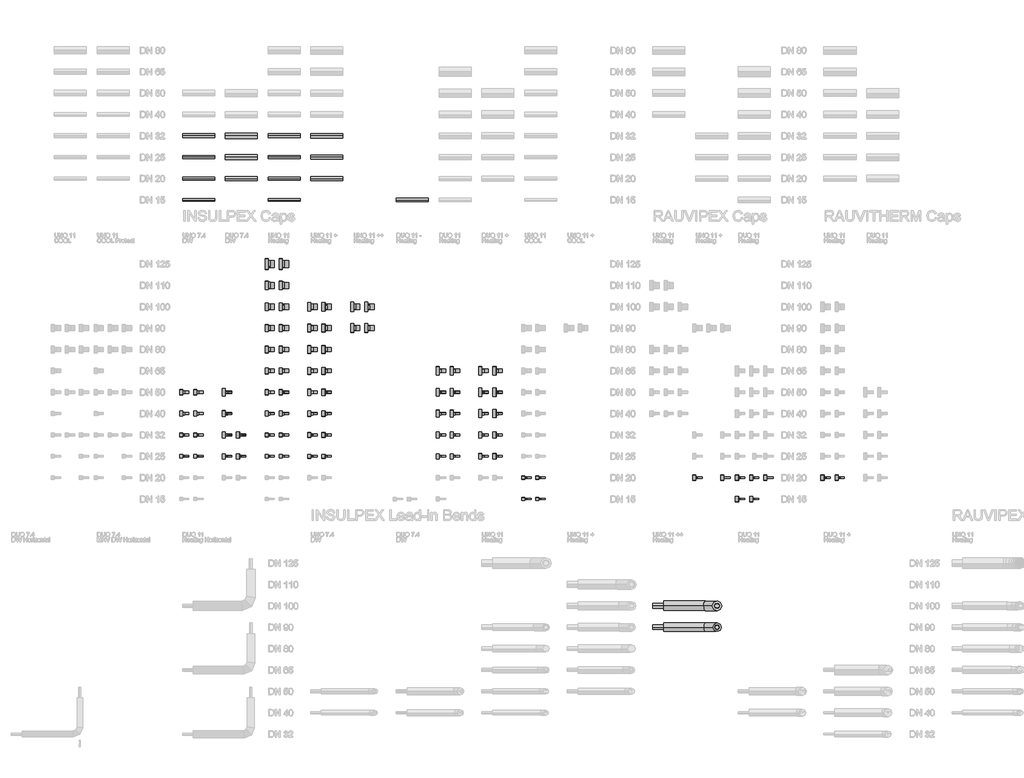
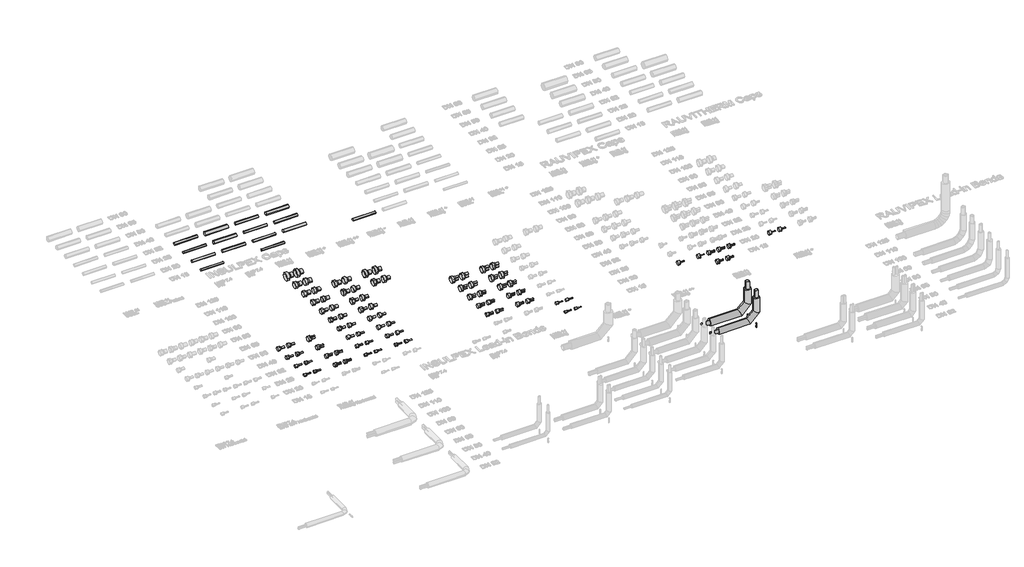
# One storey, part 4 of 44: 89 pipe fittings, 15 pipe segments.
"""IFC4 building model written with IfcOpenShell, lengths in millimetres."""

from ifc_helpers import new_model, si_unit, point, frame, frame_2d, origin, place, context, project, spatial, circle_curve, trimmed, segment, composite_curve, outline, extrude, transform, mapped, element, save
from components import dh_duo_cap_c0886c2c, dh_duo_cap_2891c07b, dh_duo_cap_0ae49115, dh_duo_cap_7376605e, dh_duo_cap_549dceba, dh_duo_cap_dc4fb15a, dh_duo_cap_d58dff88, dh_duo_cap_2132d5ff, dh_duo_cap_80edf0fb, dh_duo_cap_8e50b88e, dh_duo_cap_98e0b925, dh_duo_cap_5ac59d29, dh_duo_cap_72990c74, dh_duo_cap_bd780a9d, dh_duo_cap_ada487e7, dh_duo_cap_08c91057, dh_duo_cap_dd34fc89, dh_lead_in_bend_4e561535, dh_lead_in_bend_d22ee4a0, dh_uno_cap_5460b27a, dh_uno_cap_8e0573e4, dh_uno_cap_ab5e3a51, dh_uno_cap_f65759d9, dh_uno_cap_60eb62a6, dh_uno_cap_2e9ba6ca, dh_uno_cap_8f49c9b3, dh_uno_cap_73bbd93a, dh_uno_cap_b1d16c7a, dh_uno_cap_f05d5978, dh_uno_cap_76ab3ae5, dh_uno_cap_4b470b20, dh_uno_cap_1110688d, dh_uno_cap_ebf1c952, dh_uno_cap_b74b09e4, dh_uno_cap_660b20ca, dh_uno_cap_ae57088b, dh_uno_cap_9719752f, dh_uno_cap_eec5e457, dh_uno_cap_a6355fbc, dh_uno_cap_2535ad4f, dh_uno_cap_330119eb, dh_uno_cap_8feabba9, dh_uno_cap_f899c086, dh_uno_cap_b82545c9, dh_uno_cap_0b3657b0, dh_uno_cap_e4b64a7b, dh_uno_cap_b0b1e030, dh_uno_cap_d248aa2c

model = new_model("IFC4")

# Units and contexts
model_context = context("Model", 3, world=origin())
ifc_project = project(units=[si_unit("LENGTHUNIT", "METRE", prefix="MILLI")], contexts=[model_context])

# Site, building, storey
site = spatial("IfcSite", under=ifc_project)
building = spatial("IfcBuilding", under=site)
storey = spatial("IfcBuildingStorey", under=building, Name="REHAU Starting view", Elevation=0.0)

# Pipe fittings
placement = place(None, origin())
dh_duo_cap_shape = dh_duo_cap_c0886c2c(model_context)
element("IfcPipeFitting", 1, ObjectType="DH_DUO_CAP : INSULPEX DUO + 11 Heating - Schrink Cap", at=placement, inside=storey, context=model_context, shape_type="MappedRepresentation", body=[
    mapped(dh_duo_cap_shape, transform((23000.0, 8000.0, 0.0), x_axis=(1.0, 0.0, 0.0), y_axis=(0.0, -1.0, 0.0), z_axis=(0.0, 0.0, -1.0))),
])
element("IfcPipeFitting", 2, ObjectType="DH_DUO_CAP : INSULPEX DUO + 11 Heating - Rubber Cap", at=placement, inside=storey, context=model_context, shape_type="MappedRepresentation", body=[
    mapped(dh_duo_cap_shape, transform((23330.0, 8000.0, 0.0), x_axis=(1.0, 0.0, 0.0), y_axis=(0.0, -1.0, 0.0), z_axis=(0.0, 0.0, -1.0))),
])
dh_duo_cap_2_shape = dh_duo_cap_2891c07b(model_context)
element("IfcPipeFitting", 3, ObjectType="DH_DUO_CAP : INSULPEX DUO 11 Heating - Rubber Cap", at=placement, inside=storey, context=model_context, shape_type="MappedRepresentation", body=[
    mapped(dh_duo_cap_2_shape, transform((22330.0, 8000.0, 0.0), x_axis=(1.0, 0.0, 0.0), y_axis=(0.0, -1.0, 0.0), z_axis=(0.0, 0.0, -1.0))),
])
dh_duo_cap_3_shape = dh_duo_cap_0ae49115(model_context)
element("IfcPipeFitting", 4, ObjectType="DH_DUO_CAP : INSULPEX DUO 7.4 DW - Rubber Cap", at=placement, inside=storey, context=model_context, shape_type="MappedRepresentation", body=[
    mapped(dh_duo_cap_3_shape, transform((17330.0, 8000.0, 0.0), x_axis=(1.0, 0.0, 0.0), y_axis=(0.0, 1.0, 0.0), z_axis=(0.0, 0.0, 1.0))),
])
element("IfcPipeFitting", 5, ObjectType="DH_DUO_CAP : INSULPEX DUO 7.4 DW - Schrink Cap", at=placement, inside=storey, context=model_context, shape_type="MappedRepresentation", body=[
    mapped(dh_duo_cap_3_shape, transform((17000.0, 8000.0, 0.0), x_axis=(1.0, 0.0, 0.0), y_axis=(0.0, 1.0, 0.0), z_axis=(0.0, 0.0, 1.0))),
])
dh_duo_cap_4_shape = dh_duo_cap_7376605e(model_context)
element("IfcPipeFitting", 6, ObjectType="DH_DUO_CAP : INSULPEX DUO 7.4 DW - Rubber Cap", at=placement, inside=storey, context=model_context, shape_type="MappedRepresentation", body=[
    mapped(dh_duo_cap_4_shape, transform((17330.0, 8500.0, 0.0), x_axis=(1.0, 0.0, 0.0), y_axis=(0.0, 1.0, 0.0), z_axis=(0.0, 0.0, 1.0))),
])
element("IfcPipeFitting", 7, ObjectType="DH_DUO_CAP : INSULPEX DUO 7.4 DW - Schrink Cap", at=placement, inside=storey, context=model_context, shape_type="MappedRepresentation", body=[
    mapped(dh_duo_cap_4_shape, transform((17000.0, 8500.0, 0.0), x_axis=(1.0, 0.0, 0.0), y_axis=(0.0, 1.0, 0.0), z_axis=(0.0, 0.0, 1.0))),
])
dh_duo_cap_5_shape = dh_duo_cap_549dceba(model_context)
element("IfcPipeFitting", 8, ObjectType="DH_DUO_CAP : INSULPEX DUO 7.4 DW - Schrink Cap", at=placement, inside=storey, context=model_context, shape_type="MappedRepresentation", body=[
    mapped(dh_duo_cap_5_shape, transform((17000.0, 9000.0, 0.0), x_axis=(1.0, 0.0, 0.0), y_axis=(0.0, 1.0, 0.0), z_axis=(0.0, 0.0, 1.0))),
])
dh_duo_cap_6_shape = dh_duo_cap_dc4fb15a(model_context)
element("IfcPipeFitting", 9, ObjectType="DH_DUO_CAP : INSULPEX DUO 7.4 DW - Schrink Cap", at=placement, inside=storey, context=model_context, shape_type="MappedRepresentation", body=[
    mapped(dh_duo_cap_6_shape, transform((17000.0, 9500.0, 0.0), x_axis=(1.0, 0.0, 0.0), y_axis=(0.0, 1.0, 0.0), z_axis=(0.0, 0.0, 1.0))),
])
element("IfcPipeFitting", 10, ObjectType="DH_DUO_CAP : INSULPEX DUO 11 Heating - Schrink Cap", at=placement, inside=storey, context=model_context, shape_type="MappedRepresentation", body=[
    mapped(dh_duo_cap_2_shape, transform((22000.0, 8000.0, 0.0), x_axis=(1.0, 0.0, 0.0), y_axis=(0.0, -1.0, 0.0), z_axis=(0.0, 0.0, -1.0))),
])
dh_duo_cap_7_shape = dh_duo_cap_d58dff88(model_context)
element("IfcPipeFitting", 11, ObjectType="DH_DUO_CAP : INSULPEX DUO 11 Heating - Rubber Cap", at=placement, inside=storey, context=model_context, shape_type="MappedRepresentation", body=[
    mapped(dh_duo_cap_7_shape, transform((22330.0, 8500.0, 0.0), x_axis=(1.0, 0.0, 0.0), y_axis=(0.0, -1.0, 0.0), z_axis=(0.0, 0.0, -1.0))),
])
element("IfcPipeFitting", 12, ObjectType="DH_DUO_CAP : INSULPEX DUO 11 Heating - Schrink Cap", at=placement, inside=storey, context=model_context, shape_type="MappedRepresentation", body=[
    mapped(dh_duo_cap_7_shape, transform((22000.0, 8500.0, 0.0), x_axis=(1.0, 0.0, 0.0), y_axis=(0.0, -1.0, 0.0), z_axis=(0.0, 0.0, -1.0))),
])
dh_duo_cap_8_shape = dh_duo_cap_2132d5ff(model_context)
element("IfcPipeFitting", 13, ObjectType="DH_DUO_CAP : INSULPEX DUO 11 Heating - Rubber Cap", at=placement, inside=storey, context=model_context, shape_type="MappedRepresentation", body=[
    mapped(dh_duo_cap_8_shape, transform((22330.0, 9000.0, 0.0), x_axis=(1.0, 0.0, 0.0), y_axis=(0.0, -1.0, 0.0), z_axis=(0.0, 0.0, -1.0))),
])
element("IfcPipeFitting", 14, ObjectType="DH_DUO_CAP : INSULPEX DUO 11 Heating - Schrink Cap", at=placement, inside=storey, context=model_context, shape_type="MappedRepresentation", body=[
    mapped(dh_duo_cap_8_shape, transform((22000.0, 9000.0, 0.0), x_axis=(1.0, 0.0, 0.0), y_axis=(0.0, -1.0, 0.0), z_axis=(0.0, 0.0, -1.0))),
])
dh_duo_cap_9_shape = dh_duo_cap_80edf0fb(model_context)
element("IfcPipeFitting", 15, ObjectType="DH_DUO_CAP : INSULPEX DUO 11 Heating - Rubber Cap", at=placement, inside=storey, context=model_context, shape_type="MappedRepresentation", body=[
    mapped(dh_duo_cap_9_shape, transform((22330.0, 9500.0, 0.0), x_axis=(1.0, 0.0, 0.0), y_axis=(0.0, -1.0, 0.0), z_axis=(0.0, 0.0, -1.0))),
])
element("IfcPipeFitting", 16, ObjectType="DH_DUO_CAP : INSULPEX DUO 11 Heating - Schrink Cap", at=placement, inside=storey, context=model_context, shape_type="MappedRepresentation", body=[
    mapped(dh_duo_cap_9_shape, transform((22000.0, 9500.0, 0.0), x_axis=(1.0, 0.0, 0.0), y_axis=(0.0, -1.0, 0.0), z_axis=(0.0, 0.0, -1.0))),
])
dh_duo_cap_10_shape = dh_duo_cap_8e50b88e(model_context)
element("IfcPipeFitting", 17, ObjectType="DH_DUO_CAP : INSULPEX DUO 11 Heating - Rubber Cap", at=placement, inside=storey, context=model_context, shape_type="MappedRepresentation", body=[
    mapped(dh_duo_cap_10_shape, transform((22330.0, 10000.0, 0.0), x_axis=(1.0, 0.0, 0.0), y_axis=(0.0, -1.0, 0.0), z_axis=(0.0, 0.0, -1.0))),
])
element("IfcPipeFitting", 18, ObjectType="DH_DUO_CAP : INSULPEX DUO 11 Heating - Schrink Cap", at=placement, inside=storey, context=model_context, shape_type="MappedRepresentation", body=[
    mapped(dh_duo_cap_10_shape, transform((22000.0, 10000.0, 0.0), x_axis=(1.0, 0.0, 0.0), y_axis=(0.0, -1.0, 0.0), z_axis=(0.0, 0.0, -1.0))),
])
dh_duo_cap_11_shape = dh_duo_cap_98e0b925(model_context)
element("IfcPipeFitting", 19, ObjectType="DH_DUO_CAP : INSULPEX DUO + 11 Heating - Rubber Cap", at=placement, inside=storey, context=model_context, shape_type="MappedRepresentation", body=[
    mapped(dh_duo_cap_11_shape, transform((23330.0, 8500.0, 0.0), x_axis=(1.0, 0.0, 0.0), y_axis=(0.0, -1.0, 0.0), z_axis=(0.0, 0.0, -1.0))),
])
element("IfcPipeFitting", 20, ObjectType="DH_DUO_CAP : INSULPEX DUO + 11 Heating - Schrink Cap", at=placement, inside=storey, context=model_context, shape_type="MappedRepresentation", body=[
    mapped(dh_duo_cap_11_shape, transform((23000.0, 8500.0, 0.0), x_axis=(1.0, 0.0, 0.0), y_axis=(0.0, -1.0, 0.0), z_axis=(0.0, 0.0, -1.0))),
])
dh_duo_cap_12_shape = dh_duo_cap_5ac59d29(model_context)
element("IfcPipeFitting", 21, ObjectType="DH_DUO_CAP : INSULPEX DUO + 11 Heating - Rubber Cap", at=placement, inside=storey, context=model_context, shape_type="MappedRepresentation", body=[
    mapped(dh_duo_cap_12_shape, transform((23330.0, 9000.0, 0.0), x_axis=(1.0, 0.0, 0.0), y_axis=(0.0, -1.0, 0.0), z_axis=(0.0, 0.0, -1.0))),
])
element("IfcPipeFitting", 22, ObjectType="DH_DUO_CAP : INSULPEX DUO + 11 Heating - Schrink Cap", at=placement, inside=storey, context=model_context, shape_type="MappedRepresentation", body=[
    mapped(dh_duo_cap_12_shape, transform((23000.0, 9000.0, 0.0), x_axis=(1.0, 0.0, 0.0), y_axis=(0.0, -1.0, 0.0), z_axis=(0.0, 0.0, -1.0))),
])
dh_duo_cap_13_shape = dh_duo_cap_72990c74(model_context)
element("IfcPipeFitting", 23, ObjectType="DH_DUO_CAP : INSULPEX DUO + 11 Heating - Rubber Cap", at=placement, inside=storey, context=model_context, shape_type="MappedRepresentation", body=[
    mapped(dh_duo_cap_13_shape, transform((23330.0, 9500.0, 0.0), x_axis=(1.0, 0.0, 0.0), y_axis=(0.0, -1.0, 0.0), z_axis=(0.0, 0.0, -1.0))),
])
element("IfcPipeFitting", 24, ObjectType="DH_DUO_CAP : INSULPEX DUO + 11 Heating - Schrink Cap", at=placement, inside=storey, context=model_context, shape_type="MappedRepresentation", body=[
    mapped(dh_duo_cap_13_shape, transform((23000.0, 9500.0, 0.0), x_axis=(1.0, 0.0, 0.0), y_axis=(0.0, -1.0, 0.0), z_axis=(0.0, 0.0, -1.0))),
])
dh_duo_cap_14_shape = dh_duo_cap_bd780a9d(model_context)
element("IfcPipeFitting", 25, ObjectType="DH_DUO_CAP : RAUVIPEX DUO 11 Heating - Schrink Cap", at=placement, inside=storey, context=model_context, shape_type="MappedRepresentation", body=[
    mapped(dh_duo_cap_14_shape, transform((29000.0, 7000.0, 0.0), x_axis=(1.0, 0.0, 0.0), y_axis=(0.0, 1.0, 0.0), z_axis=(0.0, 0.0, 1.0))),
])
element("IfcPipeFitting", 26, ObjectType="DH_DUO_CAP : RAUVIPEX DUO 11 Heating - Rubber Cap", at=placement, inside=storey, context=model_context, shape_type="MappedRepresentation", body=[
    mapped(dh_duo_cap_14_shape, transform((29330.0, 7000.0, 0.0), x_axis=(1.0, 0.0, 0.0), y_axis=(0.0, 1.0, 0.0), z_axis=(0.0, 0.0, 1.0))),
])
dh_duo_cap_15_shape = dh_duo_cap_ada487e7(model_context)
element("IfcPipeFitting", 27, ObjectType="DH_DUO_CAP : RAUVIPEX DUO 11 Heating - Schrink Cap", at=placement, inside=storey, context=model_context, shape_type="MappedRepresentation", body=[
    mapped(dh_duo_cap_15_shape, transform((29000.0, 7500.0, 0.0), x_axis=(1.0, 0.0, 0.0), y_axis=(0.0, 1.0, 0.0), z_axis=(0.0, 0.0, 1.0))),
])
element("IfcPipeFitting", 28, ObjectType="DH_DUO_CAP : RAUVIPEX DUO 11 Heating - Rubber Cap", at=placement, inside=storey, context=model_context, shape_type="MappedRepresentation", body=[
    mapped(dh_duo_cap_15_shape, transform((29330.0, 7500.0, 0.0), x_axis=(1.0, 0.0, 0.0), y_axis=(0.0, 1.0, 0.0), z_axis=(0.0, 0.0, 1.0))),
])
dh_duo_cap_16_shape = dh_duo_cap_08c91057(model_context)
element("IfcPipeFitting", 29, ObjectType="DH_DUO_CAP : RAUVIPEX DUO 11 Heating - Solid Cap", at=placement, inside=storey, context=model_context, shape_type="MappedRepresentation", body=[
    mapped(dh_duo_cap_16_shape, transform((29660.0, 7500.0, 0.0), x_axis=(1.0, 0.0, 0.0), y_axis=(0.0, 1.0, 0.0), z_axis=(0.0, 0.0, 1.0))),
])
dh_duo_cap_17_shape = dh_duo_cap_dd34fc89(model_context)
element("IfcPipeFitting", 30, ObjectType="DH_DUO_CAP : INSULPEX DUO + 11 Heating - Rubber Cap", at=placement, inside=storey, context=model_context, shape_type="MappedRepresentation", body=[
    mapped(dh_duo_cap_17_shape, transform((23330.0, 10000.0, 0.0), x_axis=(1.0, 0.0, 0.0), y_axis=(0.0, -1.0, 0.0), z_axis=(0.0, 0.0, -1.0))),
])
element("IfcPipeFitting", 31, ObjectType="DH_DUO_CAP : INSULPEX DUO + 11 Heating - Schrink Cap", at=placement, inside=storey, context=model_context, shape_type="MappedRepresentation", body=[
    mapped(dh_duo_cap_17_shape, transform((23000.0, 10000.0, 0.0), x_axis=(1.0, 0.0, 0.0), y_axis=(0.0, -1.0, 0.0), z_axis=(0.0, 0.0, -1.0))),
])
dh_lead_in_bend_shape = dh_lead_in_bend_4e561535(model_context)
element("IfcPipeFitting", 32, ObjectType="DH_Lead-in Bend : INSULPEX UNO ++ 11 Heating", at=placement, inside=storey, context=model_context, shape_type="MappedRepresentation", body=[
    mapped(dh_lead_in_bend_shape, transform((28500.0, 4000.0, 0.0), x_axis=(1.0, 0.0, 0.0), y_axis=(0.0, 0.0, 1.0), z_axis=(0.0, -1.0, 0.0))),
])
dh_lead_in_bend_2_shape = dh_lead_in_bend_d22ee4a0(model_context)
element("IfcPipeFitting", 33, ObjectType="DH_Lead-in Bend : INSULPEX UNO ++ 11 Heating", at=placement, inside=storey, context=model_context, shape_type="MappedRepresentation", body=[
    mapped(dh_lead_in_bend_2_shape, transform((28500.0, 4500.0, 0.0), x_axis=(1.0, 0.0, 0.0), y_axis=(0.0, 0.0, 1.0), z_axis=(0.0, -1.0, 0.0))),
])
dh_uno_cap_shape = dh_uno_cap_5460b27a(model_context)
element("IfcPipeFitting", 34, ObjectType="DH_UNO_CAP : INSULPEX UNO + 11 Heating - Schrink Cap", at=placement, inside=storey, context=model_context, shape_type="MappedRepresentation", body=[
    mapped(dh_uno_cap_shape, transform((19000.0, 8000.0, 0.0), x_axis=(1.0, 0.0, 0.0), y_axis=(0.0, 1.0, 0.0), z_axis=(0.0, 0.0, 1.0))),
])
element("IfcPipeFitting", 35, ObjectType="DH_UNO_CAP : INSULPEX UNO + 11 Heating - Rubber Cap", at=placement, inside=storey, context=model_context, shape_type="MappedRepresentation", body=[
    mapped(dh_uno_cap_shape, transform((19330.0, 8000.0, 0.0), x_axis=(1.0, 0.0, 0.0), y_axis=(0.0, -1.0, 0.0), z_axis=(0.0, 0.0, -1.0))),
])
dh_uno_cap_2_shape = dh_uno_cap_8e0573e4(model_context)
element("IfcPipeFitting", 36, ObjectType="DH_UNO_CAP : INSULPEX UNO 11 Heating - Rubber Cap", at=placement, inside=storey, context=model_context, shape_type="MappedRepresentation", body=[
    mapped(dh_uno_cap_2_shape, transform((18330.0, 8000.0, 0.0), x_axis=(1.0, 0.0, 0.0), y_axis=(0.0, -1.0, 0.0), z_axis=(0.0, 0.0, -1.0))),
])
dh_uno_cap_3_shape = dh_uno_cap_ab5e3a51(model_context)
element("IfcPipeFitting", 37, ObjectType="DH_UNO_CAP : INSULPEX UNO ++ 11 Heating - Rubber Cap", at=placement, inside=storey, context=model_context, shape_type="MappedRepresentation", body=[
    mapped(dh_uno_cap_3_shape, transform((20330.0, 11000.0, 0.0), x_axis=(1.0, 0.0, 0.0), y_axis=(0.0, -1.0, 0.0), z_axis=(0.0, 0.0, -1.0))),
])
element("IfcPipeFitting", 38, ObjectType="DH_UNO_CAP : INSULPEX UNO ++ 11 Heating - Schrink Cap", at=placement, inside=storey, context=model_context, shape_type="MappedRepresentation", body=[
    mapped(dh_uno_cap_3_shape, transform((20000.0, 11000.0, 0.0), x_axis=(1.0, 0.0, 0.0), y_axis=(0.0, 1.0, 0.0), z_axis=(0.0, 0.0, 1.0))),
])
dh_uno_cap_4_shape = dh_uno_cap_f65759d9(model_context)
element("IfcPipeFitting", 39, ObjectType="DH_UNO_CAP : INSULPEX UNO + 11 Heating - Schrink Cap", at=placement, inside=storey, context=model_context, shape_type="MappedRepresentation", body=[
    mapped(dh_uno_cap_4_shape, transform((19000.0, 9000.0, 0.0), x_axis=(1.0, 0.0, 0.0), y_axis=(0.0, 1.0, 0.0), z_axis=(0.0, 0.0, 1.0))),
])
dh_uno_cap_5_shape = dh_uno_cap_60eb62a6(model_context)
element("IfcPipeFitting", 40, ObjectType="DH_UNO_CAP : INSULPEX UNO + 11 Heating - Schrink Cap", at=placement, inside=storey, context=model_context, shape_type="MappedRepresentation", body=[
    mapped(dh_uno_cap_5_shape, transform((19000.0, 9500.0, 0.0), x_axis=(1.0, 0.0, 0.0), y_axis=(0.0, 1.0, 0.0), z_axis=(0.0, 0.0, 1.0))),
])
dh_uno_cap_6_shape = dh_uno_cap_2e9ba6ca(model_context)
element("IfcPipeFitting", 41, ObjectType="DH_UNO_CAP : INSULPEX UNO + 11 Heating - Schrink Cap", at=placement, inside=storey, context=model_context, shape_type="MappedRepresentation", body=[
    mapped(dh_uno_cap_6_shape, transform((19000.0, 10000.0, 0.0), x_axis=(1.0, 0.0, 0.0), y_axis=(0.0, 1.0, 0.0), z_axis=(0.0, 0.0, 1.0))),
])
dh_uno_cap_7_shape = dh_uno_cap_8f49c9b3(model_context)
element("IfcPipeFitting", 42, ObjectType="DH_UNO_CAP : INSULPEX UNO + 11 Heating - Schrink Cap", at=placement, inside=storey, context=model_context, shape_type="MappedRepresentation", body=[
    mapped(dh_uno_cap_7_shape, transform((19000.0, 10500.0, 0.0), x_axis=(1.0, 0.0, 0.0), y_axis=(0.0, 1.0, 0.0), z_axis=(0.0, 0.0, 1.0))),
])
dh_uno_cap_8_shape = dh_uno_cap_73bbd93a(model_context)
element("IfcPipeFitting", 43, ObjectType="DH_UNO_CAP : INSULPEX UNO + 11 Heating - Schrink Cap", at=placement, inside=storey, context=model_context, shape_type="MappedRepresentation", body=[
    mapped(dh_uno_cap_8_shape, transform((19000.0, 11000.0, 0.0), x_axis=(1.0, 0.0, 0.0), y_axis=(0.0, 1.0, 0.0), z_axis=(0.0, 0.0, 1.0))),
])
dh_uno_cap_9_shape = dh_uno_cap_b1d16c7a(model_context)
element("IfcPipeFitting", 44, ObjectType="DH_UNO_CAP : INSULPEX UNO + 11 Heating - Schrink Cap", at=placement, inside=storey, context=model_context, shape_type="MappedRepresentation", body=[
    mapped(dh_uno_cap_9_shape, transform((19000.0, 11500.0, 0.0), x_axis=(1.0, 0.0, 0.0), y_axis=(0.0, 1.0, 0.0), z_axis=(0.0, 0.0, 1.0))),
])
dh_uno_cap_10_shape = dh_uno_cap_f05d5978(model_context)
element("IfcPipeFitting", 45, ObjectType="DH_UNO_CAP : INSULPEX UNO 7.4 DW - Schrink Cap", at=placement, inside=storey, context=model_context, shape_type="MappedRepresentation", body=[
    mapped(dh_uno_cap_10_shape, transform((16000.0, 8000.0, 0.0), x_axis=(1.0, 0.0, 0.0), y_axis=(0.0, 1.0, 0.0), z_axis=(0.0, 0.0, 1.0))),
])
element("IfcPipeFitting", 46, ObjectType="DH_UNO_CAP : INSULPEX UNO 7.4 DW - Rubber Cap", at=placement, inside=storey, context=model_context, shape_type="MappedRepresentation", body=[
    mapped(dh_uno_cap_10_shape, transform((16330.0, 8000.0, 0.0), x_axis=(1.0, 0.0, 0.0), y_axis=(0.0, 1.0, 0.0), z_axis=(0.0, 0.0, 1.0))),
])
dh_uno_cap_11_shape = dh_uno_cap_76ab3ae5(model_context)
element("IfcPipeFitting", 47, ObjectType="DH_UNO_CAP : INSULPEX UNO 7.4 DW - Schrink Cap", at=placement, inside=storey, context=model_context, shape_type="MappedRepresentation", body=[
    mapped(dh_uno_cap_11_shape, transform((16000.0, 8500.0, 0.0), x_axis=(1.0, 0.0, 0.0), y_axis=(0.0, 1.0, 0.0), z_axis=(0.0, 0.0, 1.0))),
])
element("IfcPipeFitting", 48, ObjectType="DH_UNO_CAP : INSULPEX UNO 7.4 DW - Rubber Cap", at=placement, inside=storey, context=model_context, shape_type="MappedRepresentation", body=[
    mapped(dh_uno_cap_11_shape, transform((16330.0, 8500.0, 0.0), x_axis=(1.0, 0.0, 0.0), y_axis=(0.0, 1.0, 0.0), z_axis=(0.0, 0.0, 1.0))),
])
dh_uno_cap_12_shape = dh_uno_cap_4b470b20(model_context)
element("IfcPipeFitting", 49, ObjectType="DH_UNO_CAP : INSULPEX UNO 7.4 DW - Schrink Cap", at=placement, inside=storey, context=model_context, shape_type="MappedRepresentation", body=[
    mapped(dh_uno_cap_12_shape, transform((16000.0, 9000.0, 0.0), x_axis=(1.0, 0.0, 0.0), y_axis=(0.0, 1.0, 0.0), z_axis=(0.0, 0.0, 1.0))),
])
element("IfcPipeFitting", 50, ObjectType="DH_UNO_CAP : INSULPEX UNO 7.4 DW - Rubber Cap", at=placement, inside=storey, context=model_context, shape_type="MappedRepresentation", body=[
    mapped(dh_uno_cap_12_shape, transform((16330.0, 9000.0, 0.0), x_axis=(1.0, 0.0, 0.0), y_axis=(0.0, 1.0, 0.0), z_axis=(0.0, 0.0, 1.0))),
])
dh_uno_cap_13_shape = dh_uno_cap_1110688d(model_context)
element("IfcPipeFitting", 51, ObjectType="DH_UNO_CAP : INSULPEX UNO 7.4 DW - Schrink Cap", at=placement, inside=storey, context=model_context, shape_type="MappedRepresentation", body=[
    mapped(dh_uno_cap_13_shape, transform((16000.0, 9500.0, 0.0), x_axis=(1.0, 0.0, 0.0), y_axis=(0.0, 1.0, 0.0), z_axis=(0.0, 0.0, 1.0))),
])
element("IfcPipeFitting", 52, ObjectType="DH_UNO_CAP : INSULPEX UNO 7.4 DW - Rubber Cap", at=placement, inside=storey, context=model_context, shape_type="MappedRepresentation", body=[
    mapped(dh_uno_cap_13_shape, transform((16330.0, 9500.0, 0.0), x_axis=(1.0, 0.0, 0.0), y_axis=(0.0, 1.0, 0.0), z_axis=(0.0, 0.0, 1.0))),
])
element("IfcPipeFitting", 53, ObjectType="DH_UNO_CAP : INSULPEX UNO 11 Heating - Schrink Cap", at=placement, inside=storey, context=model_context, shape_type="MappedRepresentation", body=[
    mapped(dh_uno_cap_2_shape, transform((18000.0, 8000.0, 0.0), x_axis=(1.0, 0.0, 0.0), y_axis=(0.0, 1.0, 0.0), z_axis=(0.0, 0.0, 1.0))),
])
dh_uno_cap_14_shape = dh_uno_cap_ebf1c952(model_context)
element("IfcPipeFitting", 54, ObjectType="DH_UNO_CAP : INSULPEX UNO 11 Heating - Schrink Cap", at=placement, inside=storey, context=model_context, shape_type="MappedRepresentation", body=[
    mapped(dh_uno_cap_14_shape, transform((18000.0, 8500.0, 0.0), x_axis=(1.0, 0.0, 0.0), y_axis=(0.0, 1.0, 0.0), z_axis=(0.0, 0.0, 1.0))),
])
dh_uno_cap_15_shape = dh_uno_cap_b74b09e4(model_context)
element("IfcPipeFitting", 55, ObjectType="DH_UNO_CAP : INSULPEX UNO 11 Heating - Schrink Cap", at=placement, inside=storey, context=model_context, shape_type="MappedRepresentation", body=[
    mapped(dh_uno_cap_15_shape, transform((18000.0, 9000.0, 0.0), x_axis=(1.0, 0.0, 0.0), y_axis=(0.0, 1.0, 0.0), z_axis=(0.0, 0.0, 1.0))),
])
dh_uno_cap_16_shape = dh_uno_cap_660b20ca(model_context)
element("IfcPipeFitting", 56, ObjectType="DH_UNO_CAP : INSULPEX UNO 11 Heating - Schrink Cap", at=placement, inside=storey, context=model_context, shape_type="MappedRepresentation", body=[
    mapped(dh_uno_cap_16_shape, transform((18000.0, 9500.0, 0.0), x_axis=(1.0, 0.0, 0.0), y_axis=(0.0, 1.0, 0.0), z_axis=(0.0, 0.0, 1.0))),
])
dh_uno_cap_17_shape = dh_uno_cap_ae57088b(model_context)
element("IfcPipeFitting", 57, ObjectType="DH_UNO_CAP : INSULPEX UNO 11 Heating - Schrink Cap", at=placement, inside=storey, context=model_context, shape_type="MappedRepresentation", body=[
    mapped(dh_uno_cap_17_shape, transform((18000.0, 10000.0, 0.0), x_axis=(1.0, 0.0, 0.0), y_axis=(0.0, 1.0, 0.0), z_axis=(0.0, 0.0, 1.0))),
])
dh_uno_cap_18_shape = dh_uno_cap_9719752f(model_context)
element("IfcPipeFitting", 58, ObjectType="DH_UNO_CAP : INSULPEX UNO 11 Heating - Schrink Cap", at=placement, inside=storey, context=model_context, shape_type="MappedRepresentation", body=[
    mapped(dh_uno_cap_18_shape, transform((18000.0, 10500.0, 0.0), x_axis=(1.0, 0.0, 0.0), y_axis=(0.0, 1.0, 0.0), z_axis=(0.0, 0.0, 1.0))),
])
dh_uno_cap_19_shape = dh_uno_cap_eec5e457(model_context)
element("IfcPipeFitting", 59, ObjectType="DH_UNO_CAP : INSULPEX UNO 11 Heating - Schrink Cap", at=placement, inside=storey, context=model_context, shape_type="MappedRepresentation", body=[
    mapped(dh_uno_cap_19_shape, transform((18000.0, 11000.0, 0.0), x_axis=(1.0, 0.0, 0.0), y_axis=(0.0, 1.0, 0.0), z_axis=(0.0, 0.0, 1.0))),
])
dh_uno_cap_20_shape = dh_uno_cap_a6355fbc(model_context)
element("IfcPipeFitting", 60, ObjectType="DH_UNO_CAP : INSULPEX UNO 11 Heating - Schrink Cap", at=placement, inside=storey, context=model_context, shape_type="MappedRepresentation", body=[
    mapped(dh_uno_cap_20_shape, transform((18000.0, 11500.0, 0.0), x_axis=(1.0, 0.0, 0.0), y_axis=(0.0, 1.0, 0.0), z_axis=(0.0, 0.0, 1.0))),
])
dh_uno_cap_21_shape = dh_uno_cap_2535ad4f(model_context)
element("IfcPipeFitting", 61, ObjectType="DH_UNO_CAP : INSULPEX UNO 11 Heating - Schrink Cap", at=placement, inside=storey, context=model_context, shape_type="MappedRepresentation", body=[
    mapped(dh_uno_cap_21_shape, transform((18000.0, 12000.0, 0.0), x_axis=(1.0, 0.0, 0.0), y_axis=(0.0, 1.0, 0.0), z_axis=(0.0, 0.0, 1.0))),
])
dh_uno_cap_22_shape = dh_uno_cap_330119eb(model_context)
element("IfcPipeFitting", 62, ObjectType="DH_UNO_CAP : INSULPEX UNO 11 Heating - Schrink Cap", at=placement, inside=storey, context=model_context, shape_type="MappedRepresentation", body=[
    mapped(dh_uno_cap_22_shape, transform((18000.0, 12500.0, 0.0), x_axis=(1.0, 0.0, 0.0), y_axis=(0.0, 1.0, 0.0), z_axis=(0.0, 0.0, 1.0))),
])
dh_uno_cap_23_shape = dh_uno_cap_8feabba9(model_context)
element("IfcPipeFitting", 63, ObjectType="DH_UNO_CAP : INSULPEX UNO + 11 Heating - Schrink Cap", at=placement, inside=storey, context=model_context, shape_type="MappedRepresentation", body=[
    mapped(dh_uno_cap_23_shape, transform((19000.0, 8500.0, 0.0), x_axis=(1.0, 0.0, 0.0), y_axis=(0.0, 1.0, 0.0), z_axis=(0.0, 0.0, 1.0))),
])
dh_uno_cap_24_shape = dh_uno_cap_f899c086(model_context)
element("IfcPipeFitting", 64, ObjectType="DH_UNO_CAP : INSULPEX UNO ++ 11 Heating - Schrink Cap", at=placement, inside=storey, context=model_context, shape_type="MappedRepresentation", body=[
    mapped(dh_uno_cap_24_shape, transform((20000.0, 11500.0, 0.0), x_axis=(1.0, 0.0, 0.0), y_axis=(0.0, 1.0, 0.0), z_axis=(0.0, 0.0, 1.0))),
])
dh_uno_cap_25_shape = dh_uno_cap_b82545c9(model_context)
element("IfcPipeFitting", 65, ObjectType="DH_UNO_CAP : INSULPEX UNO 11 COOL - Schrink Cap", at=placement, inside=storey, context=model_context, shape_type="MappedRepresentation", body=[
    mapped(dh_uno_cap_25_shape, transform((24000.0, 7000.0, 0.0), x_axis=(1.0, 0.0, 0.0), y_axis=(0.0, -1.0, 0.0), z_axis=(0.0, 0.0, -1.0))),
])
element("IfcPipeFitting", 66, ObjectType="DH_UNO_CAP : INSULPEX UNO 11 COOL - Rubber Cap", at=placement, inside=storey, context=model_context, shape_type="MappedRepresentation", body=[
    mapped(dh_uno_cap_25_shape, transform((24330.0, 7000.0, 0.0), x_axis=(1.0, 0.0, 0.0), y_axis=(0.0, -1.0, 0.0), z_axis=(0.0, 0.0, -1.0))),
])
dh_uno_cap_26_shape = dh_uno_cap_0b3657b0(model_context)
element("IfcPipeFitting", 67, ObjectType="DH_UNO_CAP : INSULPEX UNO 11 COOL - Schrink Cap", at=placement, inside=storey, context=model_context, shape_type="MappedRepresentation", body=[
    mapped(dh_uno_cap_26_shape, transform((24000.0, 7500.0, 0.0), x_axis=(1.0, 0.0, 0.0), y_axis=(0.0, -1.0, 0.0), z_axis=(0.0, 0.0, -1.0))),
])
dh_uno_cap_27_shape = dh_uno_cap_e4b64a7b(model_context)
element("IfcPipeFitting", 68, ObjectType="DH_UNO_CAP : RAUVITHERM UNO 11 Heating - Schrink Cap", at=placement, inside=storey, context=model_context, shape_type="MappedRepresentation", body=[
    mapped(dh_uno_cap_27_shape, transform((31000.0, 7500.0, 0.0), x_axis=(1.0, 0.0, 0.0), y_axis=(0.0, -1.0, 0.0), z_axis=(0.0, 0.0, -1.0))),
])
element("IfcPipeFitting", 69, ObjectType="DH_UNO_CAP : RAUVITHERM UNO 11 Heating - Rubber Cap", at=placement, inside=storey, context=model_context, shape_type="MappedRepresentation", body=[
    mapped(dh_uno_cap_27_shape, transform((31330.0, 7500.0, 0.0), x_axis=(1.0, 0.0, 0.0), y_axis=(0.0, -1.0, 0.0), z_axis=(0.0, 0.0, -1.0))),
])
dh_uno_cap_28_shape = dh_uno_cap_b0b1e030(model_context)
element("IfcPipeFitting", 70, ObjectType="DH_UNO_CAP : RAUVIPEX UNO + 11 Heating - Schrink Cap", at=placement, inside=storey, context=model_context, shape_type="MappedRepresentation", body=[
    mapped(dh_uno_cap_28_shape, transform((28000.0, 7500.0, 0.0), x_axis=(1.0, 0.0, 0.0), y_axis=(0.0, 1.0, 0.0), z_axis=(0.0, 0.0, 1.0))),
])
dh_uno_cap_29_shape = dh_uno_cap_d248aa2c(model_context)
element("IfcPipeFitting", 71, ObjectType="DH_UNO_CAP : RAUVIPEX UNO + 11 Heating - Solid Cap", at=placement, inside=storey, context=model_context, shape_type="MappedRepresentation", body=[
    mapped(dh_uno_cap_29_shape, transform((28660.0, 7500.0, 0.0), x_axis=(1.0, 0.0, 0.0), y_axis=(0.0, 1.0, 0.0), z_axis=(0.0, 0.0, 1.0))),
])
element("IfcPipeFitting", 72, ObjectType="DH_UNO_CAP : INSULPEX UNO 11 Heating - Rubber Cap", at=placement, inside=storey, context=model_context, shape_type="MappedRepresentation", body=[
    mapped(dh_uno_cap_14_shape, transform((18330.0, 8500.0, 0.0), x_axis=(1.0, 0.0, 0.0), y_axis=(0.0, -1.0, 0.0), z_axis=(0.0, 0.0, -1.0))),
])
element("IfcPipeFitting", 73, ObjectType="DH_UNO_CAP : INSULPEX UNO 11 Heating - Rubber Cap", at=placement, inside=storey, context=model_context, shape_type="MappedRepresentation", body=[
    mapped(dh_uno_cap_15_shape, transform((18330.0, 9000.0, 0.0), x_axis=(1.0, 0.0, 0.0), y_axis=(0.0, -1.0, 0.0), z_axis=(0.0, 0.0, -1.0))),
])
element("IfcPipeFitting", 74, ObjectType="DH_UNO_CAP : INSULPEX UNO 11 Heating - Rubber Cap", at=placement, inside=storey, context=model_context, shape_type="MappedRepresentation", body=[
    mapped(dh_uno_cap_16_shape, transform((18330.0, 9500.0, 0.0), x_axis=(1.0, 0.0, 0.0), y_axis=(0.0, -1.0, 0.0), z_axis=(0.0, 0.0, -1.0))),
])
element("IfcPipeFitting", 75, ObjectType="DH_UNO_CAP : INSULPEX UNO 11 Heating - Rubber Cap", at=placement, inside=storey, context=model_context, shape_type="MappedRepresentation", body=[
    mapped(dh_uno_cap_17_shape, transform((18330.0, 10000.0, 0.0), x_axis=(1.0, 0.0, 0.0), y_axis=(0.0, -1.0, 0.0), z_axis=(0.0, 0.0, -1.0))),
])
element("IfcPipeFitting", 76, ObjectType="DH_UNO_CAP : INSULPEX UNO 11 Heating - Rubber Cap", at=placement, inside=storey, context=model_context, shape_type="MappedRepresentation", body=[
    mapped(dh_uno_cap_18_shape, transform((18330.0, 10500.0, 0.0), x_axis=(1.0, 0.0, 0.0), y_axis=(0.0, -1.0, 0.0), z_axis=(0.0, 0.0, -1.0))),
])
element("IfcPipeFitting", 77, ObjectType="DH_UNO_CAP : INSULPEX UNO 11 Heating - Rubber Cap", at=placement, inside=storey, context=model_context, shape_type="MappedRepresentation", body=[
    mapped(dh_uno_cap_19_shape, transform((18330.0, 11000.0, 0.0), x_axis=(1.0, 0.0, 0.0), y_axis=(0.0, -1.0, 0.0), z_axis=(0.0, 0.0, -1.0))),
])
element("IfcPipeFitting", 78, ObjectType="DH_UNO_CAP : INSULPEX UNO 11 Heating - Rubber Cap", at=placement, inside=storey, context=model_context, shape_type="MappedRepresentation", body=[
    mapped(dh_uno_cap_20_shape, transform((18330.0, 11500.0, 0.0), x_axis=(1.0, 0.0, 0.0), y_axis=(0.0, -1.0, 0.0), z_axis=(0.0, 0.0, -1.0))),
])
element("IfcPipeFitting", 79, ObjectType="DH_UNO_CAP : INSULPEX UNO 11 Heating - Rubber Cap", at=placement, inside=storey, context=model_context, shape_type="MappedRepresentation", body=[
    mapped(dh_uno_cap_21_shape, transform((18330.0, 12000.0, 0.0), x_axis=(1.0, 0.0, 0.0), y_axis=(0.0, -1.0, 0.0), z_axis=(0.0, 0.0, -1.0))),
])
element("IfcPipeFitting", 80, ObjectType="DH_UNO_CAP : INSULPEX UNO 11 Heating - Rubber Cap", at=placement, inside=storey, context=model_context, shape_type="MappedRepresentation", body=[
    mapped(dh_uno_cap_22_shape, transform((18330.0, 12500.0, 0.0), x_axis=(1.0, 0.0, 0.0), y_axis=(0.0, -1.0, 0.0), z_axis=(0.0, 0.0, -1.0))),
])
element("IfcPipeFitting", 81, ObjectType="DH_UNO_CAP : INSULPEX UNO + 11 Heating - Rubber Cap", at=placement, inside=storey, context=model_context, shape_type="MappedRepresentation", body=[
    mapped(dh_uno_cap_23_shape, transform((19330.0, 8500.0, 0.0), x_axis=(1.0, 0.0, 0.0), y_axis=(0.0, -1.0, 0.0), z_axis=(0.0, 0.0, -1.0))),
])
element("IfcPipeFitting", 82, ObjectType="DH_UNO_CAP : INSULPEX UNO + 11 Heating - Rubber Cap", at=placement, inside=storey, context=model_context, shape_type="MappedRepresentation", body=[
    mapped(dh_uno_cap_4_shape, transform((19330.0, 9000.0, 0.0), x_axis=(1.0, 0.0, 0.0), y_axis=(0.0, -1.0, 0.0), z_axis=(0.0, 0.0, -1.0))),
])
element("IfcPipeFitting", 83, ObjectType="DH_UNO_CAP : INSULPEX UNO + 11 Heating - Rubber Cap", at=placement, inside=storey, context=model_context, shape_type="MappedRepresentation", body=[
    mapped(dh_uno_cap_5_shape, transform((19330.0, 9500.0, 0.0), x_axis=(1.0, 0.0, 0.0), y_axis=(0.0, -1.0, 0.0), z_axis=(0.0, 0.0, -1.0))),
])
element("IfcPipeFitting", 84, ObjectType="DH_UNO_CAP : INSULPEX UNO + 11 Heating - Rubber Cap", at=placement, inside=storey, context=model_context, shape_type="MappedRepresentation", body=[
    mapped(dh_uno_cap_6_shape, transform((19330.0, 10000.0, 0.0), x_axis=(1.0, 0.0, 0.0), y_axis=(0.0, -1.0, 0.0), z_axis=(0.0, 0.0, -1.0))),
])
element("IfcPipeFitting", 85, ObjectType="DH_UNO_CAP : INSULPEX UNO + 11 Heating - Rubber Cap", at=placement, inside=storey, context=model_context, shape_type="MappedRepresentation", body=[
    mapped(dh_uno_cap_7_shape, transform((19330.0, 10500.0, 0.0), x_axis=(1.0, 0.0, 0.0), y_axis=(0.0, -1.0, 0.0), z_axis=(0.0, 0.0, -1.0))),
])
element("IfcPipeFitting", 86, ObjectType="DH_UNO_CAP : INSULPEX UNO + 11 Heating - Rubber Cap", at=placement, inside=storey, context=model_context, shape_type="MappedRepresentation", body=[
    mapped(dh_uno_cap_8_shape, transform((19330.0, 11000.0, 0.0), x_axis=(1.0, 0.0, 0.0), y_axis=(0.0, -1.0, 0.0), z_axis=(0.0, 0.0, -1.0))),
])
element("IfcPipeFitting", 87, ObjectType="DH_UNO_CAP : INSULPEX UNO + 11 Heating - Rubber Cap", at=placement, inside=storey, context=model_context, shape_type="MappedRepresentation", body=[
    mapped(dh_uno_cap_9_shape, transform((19330.0, 11500.0, 0.0), x_axis=(1.0, 0.0, 0.0), y_axis=(0.0, -1.0, 0.0), z_axis=(0.0, 0.0, -1.0))),
])
element("IfcPipeFitting", 88, ObjectType="DH_UNO_CAP : INSULPEX UNO ++ 11 Heating - Rubber Cap", at=placement, inside=storey, context=model_context, shape_type="MappedRepresentation", body=[
    mapped(dh_uno_cap_24_shape, transform((20330.0, 11500.0, 0.0), x_axis=(1.0, 0.0, 0.0), y_axis=(0.0, -1.0, 0.0), z_axis=(0.0, 0.0, -1.0))),
])
element("IfcPipeFitting", 89, ObjectType="DH_UNO_CAP : INSULPEX UNO 11 COOL - Rubber Cap", at=placement, inside=storey, context=model_context, shape_type="MappedRepresentation", body=[
    mapped(dh_uno_cap_26_shape, transform((24330.0, 7500.0, 0.0), x_axis=(1.0, 0.0, 0.0), y_axis=(0.0, -1.0, 0.0), z_axis=(0.0, 0.0, -1.0))),
])

# Pipe segments
element("IfcPipeSegment", 90, ObjectType="INSULPEX UNO 7.4 DW", at=placement, inside=storey, context=model_context, shape_type="SweptSolid", body=[
    extrude(outline(composite_curve([segment(trimmed(circle_curve(frame_2d((15000.0, 0.0)), 37.5), [point((14962.5, 0.0))], [point((15000.0, 37.5))], False, "CARTESIAN"), True, "CONTINUOUS"), segment(trimmed(circle_curve(frame_2d((15000.0, 0.0)), 37.5), [point((15000.0, 37.5))], [point((15037.5, 0.0))], False, "CARTESIAN"), True, "CONTINUOUS"), segment(trimmed(circle_curve(frame_2d((15000.0, 0.0)), 37.5), [point((15037.5, 0.0))], [point((15000.0, -37.5))], False, "CARTESIAN"), True, "CONTINUOUS"), segment(trimmed(circle_curve(frame_2d((15000.0, 0.0)), 37.5), [point((15000.0, -37.5))], [point((14962.5, 0.0))], False, "CARTESIAN"), True, "CONTINUOUS")], self_intersect=False)), frame((16000.0, 0.0, 0.0), z_axis=(1.0, 0.0, 0.0), x_axis=(0.0, 1.0, 0.0)), (0.0, 0.0, 1.0), 750.0),
])
element("IfcPipeSegment", 91, ObjectType="INSULPEX UNO 7.4 DW", at=placement, inside=storey, context=model_context, shape_type="SweptSolid", body=[
    extrude(outline(composite_curve([segment(trimmed(circle_curve(frame_2d((15500.0, 0.0)), 45.0), [point((15455.0, 0.0))], [point((15500.0, 45.0))], False, "CARTESIAN"), True, "CONTINUOUS"), segment(trimmed(circle_curve(frame_2d((15500.0, 0.0)), 45.0), [point((15500.0, 45.0))], [point((15545.0, 0.0))], False, "CARTESIAN"), True, "CONTINUOUS"), segment(trimmed(circle_curve(frame_2d((15500.0, 0.0)), 45.0), [point((15545.0, 0.0))], [point((15500.0, -45.0))], False, "CARTESIAN"), True, "CONTINUOUS"), segment(trimmed(circle_curve(frame_2d((15500.0, 0.0)), 45.0), [point((15500.0, -45.0))], [point((15455.0, 0.0))], False, "CARTESIAN"), True, "CONTINUOUS")], self_intersect=False)), frame((16000.0, 0.0, 0.0), z_axis=(1.0, 0.0, 0.0), x_axis=(0.0, 1.0, 0.0)), (0.0, 0.0, 1.0), 750.0),
])
element("IfcPipeSegment", 92, ObjectType="INSULPEX UNO 7.4 DW", at=placement, inside=storey, context=model_context, shape_type="SweptSolid", body=[
    extrude(outline(composite_curve([segment(trimmed(circle_curve(frame_2d((14500.0, 0.0)), 37.5), [point((14462.5, 0.0))], [point((14500.0, 37.5))], False, "CARTESIAN"), True, "CONTINUOUS"), segment(trimmed(circle_curve(frame_2d((14500.0, 0.0)), 37.5), [point((14500.0, 37.5))], [point((14537.5, 0.0))], False, "CARTESIAN"), True, "CONTINUOUS"), segment(trimmed(circle_curve(frame_2d((14500.0, 0.0)), 37.5), [point((14537.5, 0.0))], [point((14500.0, -37.5))], False, "CARTESIAN"), True, "CONTINUOUS"), segment(trimmed(circle_curve(frame_2d((14500.0, 0.0)), 37.5), [point((14500.0, -37.5))], [point((14462.5, 0.0))], False, "CARTESIAN"), True, "CONTINUOUS")], self_intersect=False)), frame((16000.0, 0.0, 0.0), z_axis=(1.0, 0.0, 0.0), x_axis=(0.0, 1.0, 0.0)), (0.0, 0.0, 1.0), 750.0),
])
element("IfcPipeSegment", 93, ObjectType="INSULPEX UNO 7.4 DW", at=placement, inside=storey, context=model_context, shape_type="SweptSolid", body=[
    extrude(outline(composite_curve([segment(trimmed(circle_curve(frame_2d((14000.0, 0.0)), 32.5), [point((13967.5, 0.0))], [point((14000.0, 32.5))], False, "CARTESIAN"), True, "CONTINUOUS"), segment(trimmed(circle_curve(frame_2d((14000.0, 0.0)), 32.5), [point((14000.0, 32.5))], [point((14032.5, 0.0))], False, "CARTESIAN"), True, "CONTINUOUS"), segment(trimmed(circle_curve(frame_2d((14000.0, 0.0)), 32.5), [point((14032.5, 0.0))], [point((14000.0, -32.5))], False, "CARTESIAN"), True, "CONTINUOUS"), segment(trimmed(circle_curve(frame_2d((14000.0, 0.0)), 32.5), [point((14000.0, -32.5))], [point((13967.5, 0.0))], False, "CARTESIAN"), True, "CONTINUOUS")], self_intersect=False)), frame((16000.0, 0.0, 0.0), z_axis=(1.0, 0.0, 0.0), x_axis=(0.0, 1.0, 0.0)), (0.0, 0.0, 1.0), 750.0),
])
element("IfcPipeSegment", 94, ObjectType="INSULPEX DUO 7.4 DW", at=placement, inside=storey, context=model_context, shape_type="SweptSolid", body=[
    extrude(outline(composite_curve([segment(trimmed(circle_curve(frame_2d((15000.0, 0.0)), 55.0), [point((14945.0, 0.0))], [point((15000.0, 55.0))], False, "CARTESIAN"), True, "CONTINUOUS"), segment(trimmed(circle_curve(frame_2d((15000.0, 0.0)), 55.0), [point((15000.0, 55.0))], [point((15055.0, 0.0))], False, "CARTESIAN"), True, "CONTINUOUS"), segment(trimmed(circle_curve(frame_2d((15000.0, 0.0)), 55.0), [point((15055.0, 0.0))], [point((15000.0, -55.0))], False, "CARTESIAN"), True, "CONTINUOUS"), segment(trimmed(circle_curve(frame_2d((15000.0, 0.0)), 55.0), [point((15000.0, -55.0))], [point((14945.0, 0.0))], False, "CARTESIAN"), True, "CONTINUOUS")], self_intersect=False)), frame((17000.0, 0.0, 0.0), z_axis=(1.0, 0.0, 0.0), x_axis=(0.0, 1.0, 0.0)), (0.0, 0.0, 1.0), 750.0),
])
element("IfcPipeSegment", 95, ObjectType="INSULPEX DUO 7.4 DW", at=placement, inside=storey, context=model_context, shape_type="SweptSolid", body=[
    extrude(outline(composite_curve([segment(trimmed(circle_curve(frame_2d((15500.0, 0.0)), 62.5), [point((15437.5, 0.0))], [point((15500.0, 62.5))], False, "CARTESIAN"), True, "CONTINUOUS"), segment(trimmed(circle_curve(frame_2d((15500.0, 0.0)), 62.5), [point((15500.0, 62.5))], [point((15562.5, 0.0))], False, "CARTESIAN"), True, "CONTINUOUS"), segment(trimmed(circle_curve(frame_2d((15500.0, 0.0)), 62.5), [point((15562.5, 0.0))], [point((15500.0, -62.5))], False, "CARTESIAN"), True, "CONTINUOUS"), segment(trimmed(circle_curve(frame_2d((15500.0, 0.0)), 62.5), [point((15500.0, -62.5))], [point((15437.5, 0.0))], False, "CARTESIAN"), True, "CONTINUOUS")], self_intersect=False)), frame((17000.0, 0.0, 0.0), z_axis=(1.0, 0.0, 0.0), x_axis=(0.0, 1.0, 0.0)), (0.0, 0.0, 1.0), 750.0),
])
element("IfcPipeSegment", 96, ObjectType="INSULPEX DUO 7.4 DW", at=placement, inside=storey, context=model_context, shape_type="SweptSolid", body=[
    extrude(outline(composite_curve([segment(trimmed(circle_curve(frame_2d((14500.0, 0.0)), 45.0), [point((14455.0, 0.0))], [point((14500.0, 45.0))], False, "CARTESIAN"), True, "CONTINUOUS"), segment(trimmed(circle_curve(frame_2d((14500.0, 0.0)), 45.0), [point((14500.0, 45.0))], [point((14545.0, 0.0))], False, "CARTESIAN"), True, "CONTINUOUS"), segment(trimmed(circle_curve(frame_2d((14500.0, 0.0)), 45.0), [point((14545.0, 0.0))], [point((14500.0, -45.0))], False, "CARTESIAN"), True, "CONTINUOUS"), segment(trimmed(circle_curve(frame_2d((14500.0, 0.0)), 45.0), [point((14500.0, -45.0))], [point((14455.0, 0.0))], False, "CARTESIAN"), True, "CONTINUOUS")], self_intersect=False)), frame((17000.0, 0.0, 0.0), z_axis=(1.0, 0.0, 0.0), x_axis=(0.0, 1.0, 0.0)), (0.0, 0.0, 1.0), 750.0),
])
element("IfcPipeSegment", 97, ObjectType="INSULPEX UNO 11 Heating", at=placement, inside=storey, context=model_context, shape_type="SweptSolid", body=[
    extrude(outline(composite_curve([segment(trimmed(circle_curve(frame_2d((15000.0, 0.0)), 37.5), [point((14962.5, 0.0))], [point((15000.0, 37.5))], False, "CARTESIAN"), True, "CONTINUOUS"), segment(trimmed(circle_curve(frame_2d((15000.0, 0.0)), 37.5), [point((15000.0, 37.5))], [point((15037.5, 0.0))], False, "CARTESIAN"), True, "CONTINUOUS"), segment(trimmed(circle_curve(frame_2d((15000.0, 0.0)), 37.5), [point((15037.5, 0.0))], [point((15000.0, -37.5))], False, "CARTESIAN"), True, "CONTINUOUS"), segment(trimmed(circle_curve(frame_2d((15000.0, 0.0)), 37.5), [point((15000.0, -37.5))], [point((14962.5, 0.0))], False, "CARTESIAN"), True, "CONTINUOUS")], self_intersect=False)), frame((18000.0, 0.0, 0.0), z_axis=(1.0, 0.0, 0.0), x_axis=(0.0, 1.0, 0.0)), (0.0, 0.0, 1.0), 750.0),
])
element("IfcPipeSegment", 98, ObjectType="INSULPEX UNO 11 Heating", at=placement, inside=storey, context=model_context, shape_type="SweptSolid", body=[
    extrude(outline(composite_curve([segment(trimmed(circle_curve(frame_2d((15500.0, 0.0)), 45.0), [point((15455.0, 0.0))], [point((15500.0, 45.0))], False, "CARTESIAN"), True, "CONTINUOUS"), segment(trimmed(circle_curve(frame_2d((15500.0, 0.0)), 45.0), [point((15500.0, 45.0))], [point((15545.0, 0.0))], False, "CARTESIAN"), True, "CONTINUOUS"), segment(trimmed(circle_curve(frame_2d((15500.0, 0.0)), 45.0), [point((15545.0, 0.0))], [point((15500.0, -45.0))], False, "CARTESIAN"), True, "CONTINUOUS"), segment(trimmed(circle_curve(frame_2d((15500.0, 0.0)), 45.0), [point((15500.0, -45.0))], [point((15455.0, 0.0))], False, "CARTESIAN"), True, "CONTINUOUS")], self_intersect=False)), frame((18000.0, 0.0, 0.0), z_axis=(1.0, 0.0, 0.0), x_axis=(0.0, 1.0, 0.0)), (0.0, 0.0, 1.0), 750.0),
])
element("IfcPipeSegment", 99, ObjectType="INSULPEX UNO 11 Heating", at=placement, inside=storey, context=model_context, shape_type="SweptSolid", body=[
    extrude(outline(composite_curve([segment(trimmed(circle_curve(frame_2d((14500.0, 0.0)), 37.5), [point((14462.5, 0.0))], [point((14500.0, 37.5))], False, "CARTESIAN"), True, "CONTINUOUS"), segment(trimmed(circle_curve(frame_2d((14500.0, 0.0)), 37.5), [point((14500.0, 37.5))], [point((14537.5, 0.0))], False, "CARTESIAN"), True, "CONTINUOUS"), segment(trimmed(circle_curve(frame_2d((14500.0, 0.0)), 37.5), [point((14537.5, 0.0))], [point((14500.0, -37.5))], False, "CARTESIAN"), True, "CONTINUOUS"), segment(trimmed(circle_curve(frame_2d((14500.0, 0.0)), 37.5), [point((14500.0, -37.5))], [point((14462.5, 0.0))], False, "CARTESIAN"), True, "CONTINUOUS")], self_intersect=False)), frame((18000.0, 0.0, 0.0), z_axis=(1.0, 0.0, 0.0), x_axis=(0.0, 1.0, 0.0)), (0.0, 0.0, 1.0), 750.0),
])
element("IfcPipeSegment", 100, ObjectType="INSULPEX UNO 11 Heating", at=placement, inside=storey, context=model_context, shape_type="SweptSolid", body=[
    extrude(outline(composite_curve([segment(trimmed(circle_curve(frame_2d((14000.0, 0.0)), 32.5), [point((13967.5, 0.0))], [point((14000.0, 32.5))], False, "CARTESIAN"), True, "CONTINUOUS"), segment(trimmed(circle_curve(frame_2d((14000.0, 0.0)), 32.5), [point((14000.0, 32.5))], [point((14032.5, 0.0))], False, "CARTESIAN"), True, "CONTINUOUS"), segment(trimmed(circle_curve(frame_2d((14000.0, 0.0)), 32.5), [point((14032.5, 0.0))], [point((14000.0, -32.5))], False, "CARTESIAN"), True, "CONTINUOUS"), segment(trimmed(circle_curve(frame_2d((14000.0, 0.0)), 32.5), [point((14000.0, -32.5))], [point((13967.5, 0.0))], False, "CARTESIAN"), True, "CONTINUOUS")], self_intersect=False)), frame((18000.0, 0.0, 0.0), z_axis=(1.0, 0.0, 0.0), x_axis=(0.0, 1.0, 0.0)), (0.0, 0.0, 1.0), 750.0),
])
element("IfcPipeSegment", 101, ObjectType="INSULPEX UNO + 11 Heating", at=placement, inside=storey, context=model_context, shape_type="SweptSolid", body=[
    extrude(outline(composite_curve([segment(trimmed(circle_curve(frame_2d((15000.0, 0.0)), 45.0), [point((14955.0, 0.0))], [point((15000.0, 45.0))], False, "CARTESIAN"), True, "CONTINUOUS"), segment(trimmed(circle_curve(frame_2d((15000.0, 0.0)), 45.0), [point((15000.0, 45.0))], [point((15045.0, 0.0))], False, "CARTESIAN"), True, "CONTINUOUS"), segment(trimmed(circle_curve(frame_2d((15000.0, 0.0)), 45.0), [point((15045.0, 0.0))], [point((15000.0, -45.0))], False, "CARTESIAN"), True, "CONTINUOUS"), segment(trimmed(circle_curve(frame_2d((15000.0, 0.0)), 45.0), [point((15000.0, -45.0))], [point((14955.0, 0.0))], False, "CARTESIAN"), True, "CONTINUOUS")], self_intersect=False)), frame((19000.0, 0.0, 0.0), z_axis=(1.0, 0.0, 0.0), x_axis=(0.0, 1.0, 0.0)), (0.0, 0.0, 1.0), 750.0),
])
element("IfcPipeSegment", 102, ObjectType="INSULPEX UNO + 11 Heating", at=placement, inside=storey, context=model_context, shape_type="SweptSolid", body=[
    extrude(outline(composite_curve([segment(trimmed(circle_curve(frame_2d((15500.0, 0.0)), 55.0), [point((15445.0, 0.0))], [point((15500.0, 55.0))], False, "CARTESIAN"), True, "CONTINUOUS"), segment(trimmed(circle_curve(frame_2d((15500.0, 0.0)), 55.0), [point((15500.0, 55.0))], [point((15555.0, 0.0))], False, "CARTESIAN"), True, "CONTINUOUS"), segment(trimmed(circle_curve(frame_2d((15500.0, 0.0)), 55.0), [point((15555.0, 0.0))], [point((15500.0, -55.0))], False, "CARTESIAN"), True, "CONTINUOUS"), segment(trimmed(circle_curve(frame_2d((15500.0, 0.0)), 55.0), [point((15500.0, -55.0))], [point((15445.0, 0.0))], False, "CARTESIAN"), True, "CONTINUOUS")], self_intersect=False)), frame((19000.0, 0.0, 0.0), z_axis=(1.0, 0.0, 0.0), x_axis=(0.0, 1.0, 0.0)), (0.0, 0.0, 1.0), 750.0),
])
element("IfcPipeSegment", 103, ObjectType="INSULPEX UNO + 11 Heating", at=placement, inside=storey, context=model_context, shape_type="SweptSolid", body=[
    extrude(outline(composite_curve([segment(trimmed(circle_curve(frame_2d((14500.0, 0.0)), 45.0), [point((14455.0, 0.0))], [point((14500.0, 45.0))], False, "CARTESIAN"), True, "CONTINUOUS"), segment(trimmed(circle_curve(frame_2d((14500.0, 0.0)), 45.0), [point((14500.0, 45.0))], [point((14545.0, 0.0))], False, "CARTESIAN"), True, "CONTINUOUS"), segment(trimmed(circle_curve(frame_2d((14500.0, 0.0)), 45.0), [point((14545.0, 0.0))], [point((14500.0, -45.0))], False, "CARTESIAN"), True, "CONTINUOUS"), segment(trimmed(circle_curve(frame_2d((14500.0, 0.0)), 45.0), [point((14500.0, -45.0))], [point((14455.0, 0.0))], False, "CARTESIAN"), True, "CONTINUOUS")], self_intersect=False)), frame((19000.0, 0.0, 0.0), z_axis=(1.0, 0.0, 0.0), x_axis=(0.0, 1.0, 0.0)), (0.0, 0.0, 1.0), 750.0),
])
element("IfcPipeSegment", 104, ObjectType="INSULPEX DUO - 11 Heating", at=placement, inside=storey, context=model_context, shape_type="SweptSolid", body=[
    extrude(outline(composite_curve([segment(trimmed(circle_curve(frame_2d((14000.0, 0.0)), 37.5), [point((13962.5, 0.0))], [point((14000.0, 37.5))], False, "CARTESIAN"), True, "CONTINUOUS"), segment(trimmed(circle_curve(frame_2d((14000.0, 0.0)), 37.5), [point((14000.0, 37.5))], [point((14037.5, 0.0))], False, "CARTESIAN"), True, "CONTINUOUS"), segment(trimmed(circle_curve(frame_2d((14000.0, 0.0)), 37.5), [point((14037.5, 0.0))], [point((14000.0, -37.5))], False, "CARTESIAN"), True, "CONTINUOUS"), segment(trimmed(circle_curve(frame_2d((14000.0, 0.0)), 37.5), [point((14000.0, -37.5))], [point((13962.5, 0.0))], False, "CARTESIAN"), True, "CONTINUOUS")], self_intersect=False)), frame((21000.0, 0.0, 0.0), z_axis=(1.0, 0.0, 0.0), x_axis=(0.0, 1.0, 0.0)), (0.0, 0.0, 1.0), 750.0),
])

save(model, "model.ifc")
